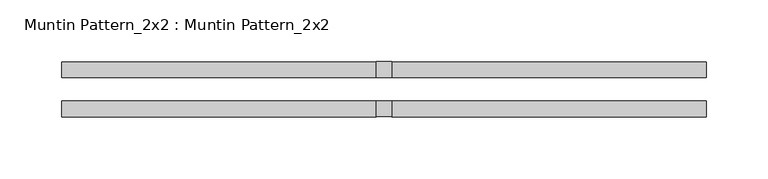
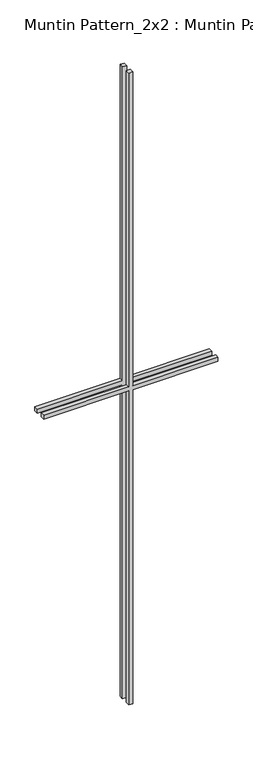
"""IFC4 building model written with IfcOpenShell, lengths in millimetres: proxy geometry, Muntin Pattern_2x2 : Muntin Pattern_2x2."""

from ifc_helpers import new_model, si_unit, frame, origin, place, context, project, spatial, polyline, outline, extrude, source, transform, mapped, element, save


def muntin_pattern_2x2_muntin_pattern_2x2_99ea1906(model_context):
    return source(origin(), model_context, "Body", "SweptSolid", [
        extrude(outline(polyline([(1003.3, -6.35), (1003.3, -260.35), (990.6, -260.35), (990.6, -6.35), (0.0, -6.35), (0.0, 6.35), (990.6, 6.35), (990.6, 260.35), (1003.3, 260.35), (1003.3, 6.35), (1993.9, 6.35), (1993.9, -6.35), (1003.3, -6.35)])), frame((0.0, -22.225, 0.0), z_axis=(0.0, 1.0, 0.0), x_axis=(0.0, 0.0, 1.0)), (0.0, 0.0, 1.0), 12.7),
        extrude(outline(polyline([(1003.3, -6.35), (1003.3, -260.35), (990.6, -260.35), (990.6, -6.35), (0.0, -6.35), (0.0, 6.35), (990.6, 6.35), (990.6, 260.35), (1003.3, 260.35), (1003.3, 6.35), (1993.9, 6.35), (1993.9, -6.35), (1003.3, -6.35)])), frame((0.0, 9.525, 0.0), z_axis=(0.0, 1.0, 0.0), x_axis=(0.0, 0.0, 1.0)), (0.0, 0.0, 1.0), 12.7),
    ])


if __name__ == "__main__":
    model = new_model("IFC4")
    model_context = context("Model", 3, world=origin())
    ifc_project = project(units=[si_unit("LENGTHUNIT", "METRE", prefix="MILLI")], contexts=[model_context])
    site = spatial("IfcSite", under=ifc_project)
    building = spatial("IfcBuilding", under=site)
    placement = place(None, origin())
    muntin_pattern_2x2_muntin_pattern_2x2_shape = muntin_pattern_2x2_muntin_pattern_2x2_99ea1906(model_context)
    element("IfcBuildingElementProxy", 1, Name="Muntin Pattern_2x2 : Muntin Pattern_2x2", ObjectType="Muntin Pattern_2x2 : Muntin Pattern_2x2", at=placement, inside=building, context=model_context, shape_type="MappedRepresentation", body=[
        mapped(muntin_pattern_2x2_muntin_pattern_2x2_shape, transform((0.0, 0.0, 0.0), x_axis=(1.0, 0.0, 0.0), y_axis=(0.0, 1.0, 0.0), z_axis=(0.0, 0.0, 1.0))),
    ])
    save(model, "model.ifc")
